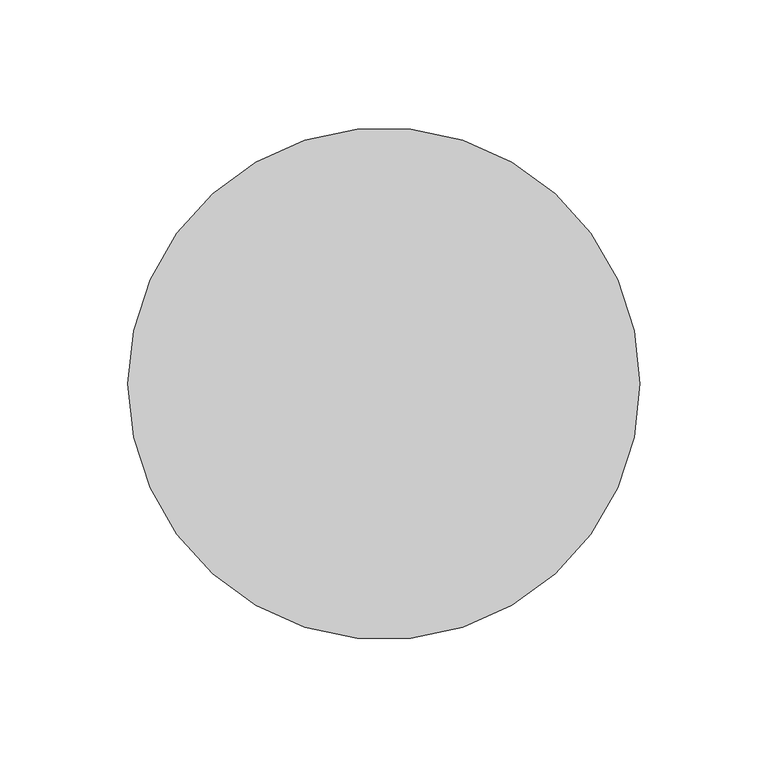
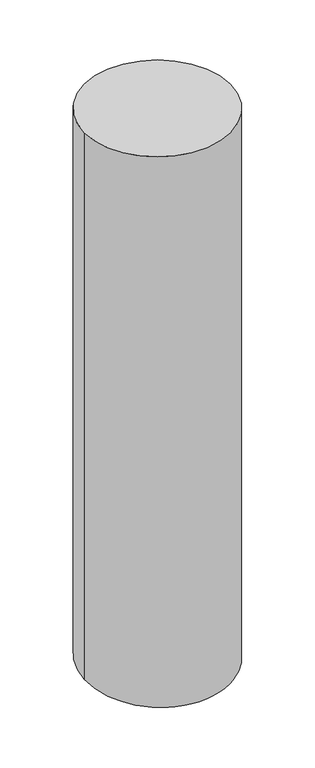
"""IFC4 building model written with IfcOpenShell, lengths in millimetres: member geometry, 矩形竖梃 : 圆瓦."""

import ifcopenshell
import ifcopenshell.guid

model = None  # the IFC model being written
_history = None  # IfcOwnerHistory: only IFC2X3 demands one
_inside = {}  # id of a spatial element -> (the spatial element, [elements in it])
_under = {}  # id of a project, library or spatial element -> (it, [spatial elements below it])
_declared = {}  # id of a project -> (the project, [libraries it declares])
_typed = {}  # id of a type object -> (the type object, [elements of that type])
_made_of = {}  # id of a material, layer set ... -> (it, [elements and type objects made of it])


def new_model(schema):
    """Start an empty IFC model of exactly this schema.

    Asked for "IFC4X3", IfcOpenShell would pick the latest addendum, in which some entities
    have other attributes; the version numbers below select the first issue.
    IFC2X3 requires an IfcOwnerHistory on every rooted entity: one is made here for all.
    """
    global model, _history
    if schema == "IFC4X3":
        model = ifcopenshell.file(schema_version=(4, 3, 0, 0))
    else:
        model = ifcopenshell.file(schema=schema)
    _inside.clear()
    _under.clear()
    _declared.clear()
    _typed.clear()
    _made_of.clear()
    _history = None
    if model.schema == "IFC2X3":
        org = make("IfcOrganization", Name="unknown")
        user = make(
            "IfcPersonAndOrganization",
            ThePerson=make("IfcPerson", FamilyName="unknown"),
            TheOrganization=org,
        )
        app = make(
            "IfcApplication",
            ApplicationDeveloper=org,
            Version="unknown",
            ApplicationFullName="unknown",
            ApplicationIdentifier="unknown",
        )
        _history = make(
            "IfcOwnerHistory",
            OwningUser=user,
            OwningApplication=app,
            ChangeAction="ADDED",
            CreationDate=0,
        )
    return model


def make(cls, **values):
    """One entity of the class cls with the attributes given. An attribute that is None is left unset."""
    return model.create_entity(
        cls, **{name: value for name, value in values.items() if value is not None}
    )


def rooted(cls, **values):
    """An entity with a GlobalId (a new one), such as an element, a storey or a relation."""
    return make(cls, GlobalId=ifcopenshell.guid.new(), OwnerHistory=_history, **values)


def si_unit(unit_type, name, prefix=None):
    """IfcSIUnit, for example si_unit("LENGTHUNIT", "METRE", prefix="MILLI")."""
    return make("IfcSIUnit", UnitType=unit_type, Prefix=prefix, Name=name)


def assignment(units):
    """IfcUnitAssignment: the units of a project."""
    return None if units is None else make("IfcUnitAssignment", Units=units)


def point(xyz):
    """IfcCartesianPoint."""
    return None if xyz is None else make("IfcCartesianPoint", Coordinates=xyz)


def direction(xyz):
    """IfcDirection."""
    return None if xyz is None else make("IfcDirection", DirectionRatios=xyz)


def frame(location, z_axis=None, x_axis=None):
    """IfcAxis2Placement3D, a coordinate frame: its origin and axes. An axis left out is left unset."""
    return make(
        "IfcAxis2Placement3D",
        Location=point(location),
        Axis=direction(z_axis),
        RefDirection=direction(x_axis),
    )


def origin():
    """The frame at (0, 0, 0) with its axes left unset."""
    return frame((0.0, 0.0, 0.0))


def origin_with_axes():
    """The frame at (0, 0, 0) with the z axis (0, 0, 1) and the x axis (1, 0, 0) written out."""
    return frame((0.0, 0.0, 0.0), z_axis=(0.0, 0.0, 1.0), x_axis=(1.0, 0.0, 0.0))


def place(relative_to, where):
    """IfcLocalPlacement: puts the frame where relative to a parent placement (None: the world)."""
    return make(
        "IfcLocalPlacement", PlacementRelTo=relative_to, RelativePlacement=where
    )


def context(
    kind, dimensions, precision=None, world=None, true_north=None, identifier=None
):
    """IfcGeometricRepresentationContext, for example the 3D "Model" context."""
    return make(
        "IfcGeometricRepresentationContext",
        ContextIdentifier=identifier,
        ContextType=kind,
        CoordinateSpaceDimension=dimensions,
        Precision=precision,
        WorldCoordinateSystem=world,
        TrueNorth=true_north,
    )


def project(units=None, contexts=None):
    """IfcProject with its units and contexts."""
    return rooted(
        "IfcProject",
        Name="project",
        RepresentationContexts=contexts,
        UnitsInContext=assignment(units),
    )


def spatial(cls, under=None, at=None, **own):
    """A site, building, storey or space (cls), placed at a placement, below another one or the project."""
    s = rooted(cls, ObjectPlacement=at, **own)
    if under is not None:
        _under.setdefault(under.id(), (under, []))[1].append(s)
    return s


def circle_curve(where, radius):
    """IfcCircle in the frame where."""
    return make("IfcCircle", Position=where, Radius=radius)


def ellipse_curve(where, semi_axis1, semi_axis2):
    """IfcEllipse in the frame where."""
    return make(
        "IfcEllipse", Position=where, SemiAxis1=semi_axis1, SemiAxis2=semi_axis2
    )


def shape(context_of_items, identifier, shape_type, items):
    """IfcShapeRepresentation: the items that make up one representation, for example the "Body"."""
    return make(
        "IfcShapeRepresentation",
        ContextOfItems=context_of_items,
        RepresentationIdentifier=identifier,
        RepresentationType=shape_type,
        Items=items,
    )


def source(mapping_origin, context_of_items, identifier, shape_type, items):
    """IfcRepresentationMap: a shape defined once, which mapped items show again and again."""
    return make(
        "IfcRepresentationMap",
        MappingOrigin=mapping_origin,
        MappedRepresentation=shape(context_of_items, identifier, shape_type, items),
    )


def transform(
    local_origin,
    x_axis=None,
    y_axis=None,
    z_axis=None,
    scale=None,
    scale2=None,
    scale3=None,
    uniform=True,
):
    """IfcCartesianTransformationOperator3D, or its non-uniform kind. x_axis, y_axis, z_axis: its Axis1, 2, 3."""
    if uniform:
        return make(
            "IfcCartesianTransformationOperator3D",
            Axis1=direction(x_axis),
            Axis2=direction(y_axis),
            LocalOrigin=point(local_origin),
            Scale=scale,
            Axis3=direction(z_axis),
        )
    return make(
        "IfcCartesianTransformationOperator3DnonUniform",
        Axis1=direction(x_axis),
        Axis2=direction(y_axis),
        LocalOrigin=point(local_origin),
        Scale=scale,
        Axis3=direction(z_axis),
        Scale2=scale2,
        Scale3=scale3,
    )


def mapped(mapping_source, mapping_target):
    """IfcMappedItem: shows the shape of a source again, moved by a transform."""
    return make(
        "IfcMappedItem", MappingSource=mapping_source, MappingTarget=mapping_target
    )


def made_of(thing, what):
    """Note that an element or type object is made of a material, layer set ...; save() writes the relation."""
    if what is not None:
        _made_of.setdefault(what.id(), (what, []))[1].append(thing)
    return thing


def element(
    cls,
    number,
    at=None,
    inside=None,
    cuts=None,
    type_object=None,
    material=None,
    context=None,
    identifier="Body",
    shape_type=None,
    held_by="IfcProductDefinitionShape",
    body=None,
    shapes=None,
    **own,
):
    """One element of the class cls, such as IfcWall. Its Tag is "e" and its number.

    at: its placement. inside: the storey or other place that contains it. cuts: it is an
    opening in that element (IfcRelVoidsElement). A single representation is given by context,
    identifier, shape_type and body (its items); several are given by shapes. held_by: the class
    of the entity that holds the representations. save() writes the other relations.
    """
    e = rooted(cls, Tag="e%d" % number, ObjectPlacement=at, **own)
    if body is not None:
        shapes = [shape(context, identifier, shape_type, body)]
    if shapes is not None:
        e.Representation = make(held_by, Representations=shapes)
    if inside is not None:
        _inside.setdefault(inside.id(), (inside, []))[1].append(e)
    if cuts is not None:
        rooted(
            "IfcRelVoidsElement", RelatingBuildingElement=cuts, RelatedOpeningElement=e
        )
    if type_object is not None:
        _typed.setdefault(type_object.id(), (type_object, []))[1].append(e)
    return made_of(e, material)


def aggregate(whole, parts):
    """IfcRelAggregates: a whole, such as a stair, and the parts it consists of."""
    return rooted("IfcRelAggregates", RelatingObject=whole, RelatedObjects=parts)


def save(model, path):
    """Write the relations noted so far, then the file.

    IfcRelAggregates (storeys below a building ...), IfcRelContainedInSpatialStructure (elements
    in a storey), IfcRelDefinesByType, IfcRelAssociatesMaterial and IfcRelDeclares: one each for
    every whole, place, type object, material and project.
    """
    for whole, parts in _under.values():
        aggregate(whole, parts)
    for where, things in _inside.values():
        rooted(
            "IfcRelContainedInSpatialStructure",
            RelatedElements=things,
            RelatingStructure=where,
        )
    for kind, things in _typed.values():
        rooted("IfcRelDefinesByType", RelatedObjects=things, RelatingType=kind)
    for what, things in _made_of.values():
        rooted("IfcRelAssociatesMaterial", RelatedObjects=things, RelatingMaterial=what)
    for by, libraries in _declared.values():
        rooted("IfcRelDeclares", RelatingContext=by, RelatedDefinitions=libraries)
    model.write(path)


def plane_surface(at):
    """IfcPlane: the flat surface through the origin of the frame at, square to its z axis."""
    return make("IfcPlane", Position=at)


def cylinder_surface(at, radius):
    """IfcCylindricalSurface: all points at the distance radius from the z axis of the frame at."""
    return make("IfcCylindricalSurface", Position=at, Radius=radius)


def advanced_brep(points, edges, surfaces, faces):
    """IfcAdvancedBrep: a solid bounded by faces that lie on surfaces and meet in shared edges.

    An edge is (start, end): straight between two places in points (the first is 0);
    or (start, end, curve); or (start, end, curve, False) where it runs against its curve.
    A face is (place in surfaces, loops), or (place, loops, False) where it looks against
    its surface's normal. A loop lists edges by number (the first is 1), with a minus sign
    where the edge is run from its end to its start. The first loop is the outer one.
    """
    corners = [point(p) for p in points]
    vertices = [make("IfcVertexPoint", VertexGeometry=c) for c in corners]
    made = []
    for start, end, *more in edges:
        made.append(
            make(
                "IfcEdgeCurve",
                EdgeStart=vertices[start],
                EdgeEnd=vertices[end],
                EdgeGeometry=more[0] if more else make("IfcPolyline", Points=[corners[start], corners[end]]),
                SameSense=more[1] if len(more) > 1 else True,
            )
        )
    hull = []
    for where, loops, *sense in faces:
        bounds = []
        for j, loop in enumerate(loops):
            ring = [make("IfcOrientedEdge", EdgeElement=made[abs(k) - 1], Orientation=k > 0) for k in loop]
            bounds.append(
                make(
                    "IfcFaceOuterBound" if j == 0 else "IfcFaceBound",
                    Bound=make("IfcEdgeLoop", EdgeList=ring),
                    Orientation=True,
                )
            )
        hull.append(make("IfcAdvancedFace", Bounds=bounds, FaceSurface=surfaces[where], SameSense=sense[0] if sense else True))
    return make("IfcAdvancedBrep", Outer=make("IfcClosedShell", CfsFaces=hull))


def member_9d2ae609(model_context):
    return source(origin(), model_context, "Body", "AdvancedBrep", [
        advanced_brep(
        [(100.0, 0.0, 0.0), (-100.0, 0.0, 0.0), (100.0, 0.0, -790.1124317), (-100.0, 0.0, -790.1124317)],
        [
            (0, 1, circle_curve(origin_with_axes(), 100.0)),
            (1, 0, circle_curve(origin_with_axes(), 100.0)),
            (0, 2),
            (2, 3, ellipse_curve(frame((0.0, 0.0, -790.1124317), z_axis=(0.0, -0.06767279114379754, 0.9977075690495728), x_axis=(0.0, 0.9977075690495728, 0.06767279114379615)), 100.2297698, 100.0)),
            (3, 1),
            (3, 2, ellipse_curve(frame((0.0, 0.0, -790.1124317), z_axis=(0.0, -0.06767279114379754, 0.9977075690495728), x_axis=(0.0, 0.9977075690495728, 0.06767279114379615)), 100.2297698, 100.0)),
        ],
        [
            plane_surface(frame((0.0, -100.0, 0.0), z_axis=(0.0, 0.0, 1.0), x_axis=(-1.0, 0.0, 0.0))),
            cylinder_surface(origin_with_axes(), 100.0),
            plane_surface(frame((-304.8, 0.0, -790.1124317), z_axis=(0.0, 0.06767279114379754, -0.9977075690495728), x_axis=(0.0, 0.9977075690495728, 0.06767279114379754))),
        ],
        [
            (0, [[1, 2]]),
            (1, [[-1, 3, 4, 5]]),
            (1, [[-2, -5, 6, -3]]),
            (2, [[-6, -4]]),
        ],
    ),
    ])


if __name__ == "__main__":
    model = new_model("IFC4")
    model_context = context("Model", 3, world=origin())
    ifc_project = project(units=[si_unit("LENGTHUNIT", "METRE", prefix="MILLI")], contexts=[model_context])
    site = spatial("IfcSite", under=ifc_project)
    building = spatial("IfcBuilding", under=site)
    placement = place(None, origin())
    member_shape = member_9d2ae609(model_context)
    element("IfcMember", 1, ObjectType="矩形竖梃 : 圆瓦", at=placement, inside=building, context=model_context, shape_type="MappedRepresentation", body=[
        mapped(member_shape, transform((0.0, 0.0, 0.0), x_axis=(1.0, 0.0, 0.0), y_axis=(0.0, 1.0, 0.0), z_axis=(0.0, 0.0, 1.0))),
    ])
    save(model, "model.ifc")
